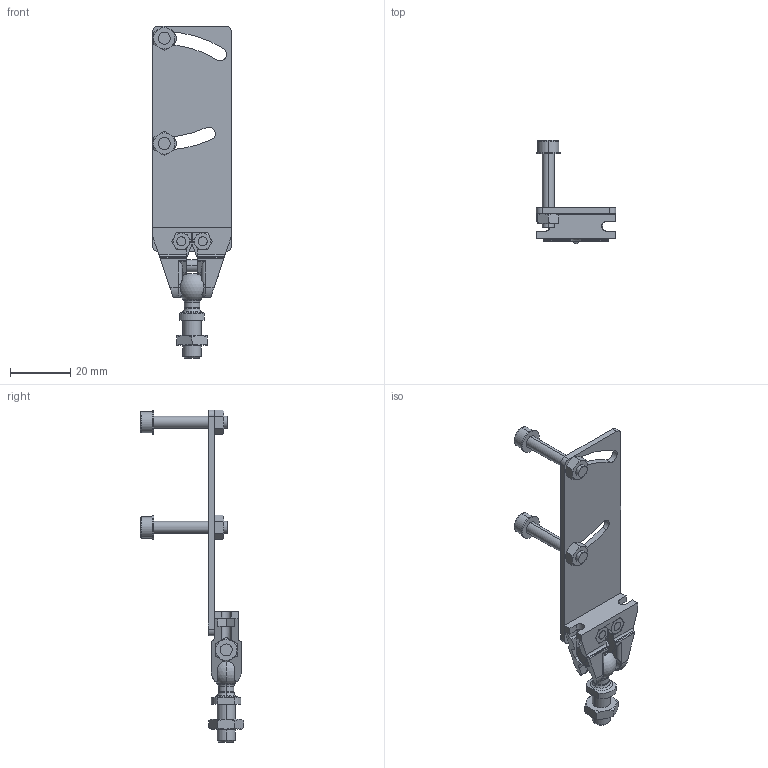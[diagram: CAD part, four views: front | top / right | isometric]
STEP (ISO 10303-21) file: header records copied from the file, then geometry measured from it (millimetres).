
FILE_DESCRIPTION((''),'2;1');
FILE_NAME('2038845_ASM','2026-06-29T07:15:13',('l.wegerer'),(''),'CREO PARAMETRIC BY PTC INC, 2019292','CREO PARAMETRIC BY PTC INC, 2019292','');
FILE_SCHEMA(('AUTOMOTIVE_DESIGN { 1 0 10303 214 1 1 1 1 }'));
Length unit declared in the file: millimetre
Products named in the file (10): 2038841; 2038833; 2038834; 2038837; 2038842; 2038843; 2038844; 2038835; 2038836; 2038845_ASM
Assembly tree (14 placements, depth 2):
  2038845_ASM
    2038841
    2038833  x2
    2038834
    2038837  x2
    2038842  x2
    2038843  x2
    2038844  x2
    2038835
    2038836
Bounding box: 26.4 x 34.27 x 110.34 mm (x, y, z)
Volume: 8509 mm3; surface area: 9699 mm2
Topology: 14 solids, 16 shells, 451 faces, 1168 edges, 754 vertices
Faces by surface type: plane 208, cylinder 114, cone 89, torus 28, bspline 8, sphere 4
Entity records: 18274 total; most frequent: CARTESIAN_POINT 3910, ORIENTED_EDGE 1930, DIRECTION 1897, PRESENTATION_STYLE_ASSIGNMENT 993, STYLED_ITEM 993, CURVE_STYLE 983, EDGE_CURVE 967, AXIS2_PLACEMENT_3D 708
